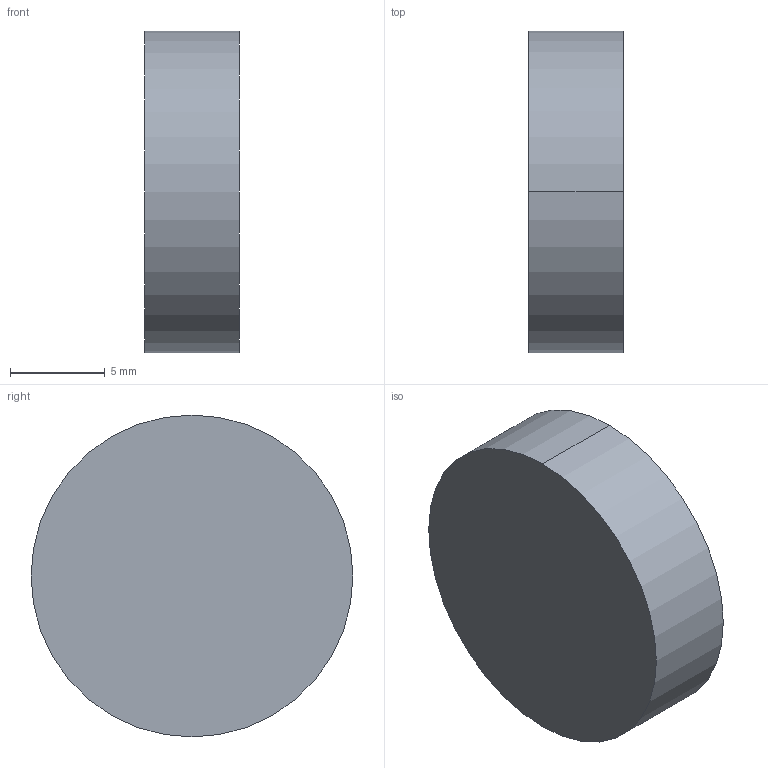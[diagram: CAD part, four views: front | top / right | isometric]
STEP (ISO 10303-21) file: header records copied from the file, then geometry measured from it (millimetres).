
FILE_DESCRIPTION (( 'STEP AP203' ), '1' );
FILE_NAME ('Pièce2-Pince mobile_Défaut_sldprt.STEP', '2024-11-30T15:38:15', ( '' ), ( '' ), 'SwSTEP 2.0', 'SolidWorks 2023', '' );
FILE_SCHEMA (( 'CONFIG_CONTROL_DESIGN' ));
Length unit declared in the file: millimetre
Products named in the file (1): Pièce2-Pince mobile_Défaut_sldprt
Bounding box: 5 x 17 x 17 mm (x, y, z)
Volume: 1134.9 mm3; surface area: 721 mm2
Topology: 1 solids, 1 shells, 4 faces, 6 edges, 4 vertices
Faces by surface type: cylinder 2, plane 2
Entity records: 171 total; most frequent: DIRECTION 20, CARTESIAN_POINT 15, ORIENTED_EDGE 12, AXIS2_PLACEMENT_3D 9, PERSON_AND_ORGANIZATION 8, EDGE_CURVE 6, CALENDAR_DATE 5, PERSON_AND_ORGANIZATION_ROLE 5
